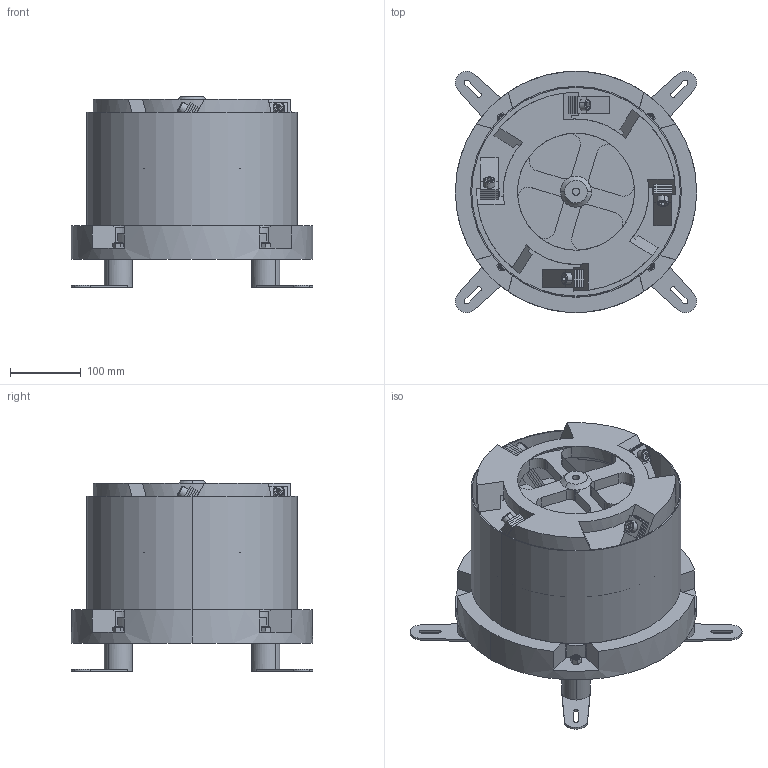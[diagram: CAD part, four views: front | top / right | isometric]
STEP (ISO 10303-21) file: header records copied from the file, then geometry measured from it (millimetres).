
FILE_DESCRIPTION (( 'STEP AP214' ), '1' );
FILE_NAME ('DA3000 酗え 沺裔_.STEP', '2022-04-21T04:55:11', ( '' ), ( '' ), 'SwSTEP 2.0', 'SolidWorks 2018', '' );
FILE_SCHEMA (( 'AUTOMOTIVE_DESIGN' ));
Length unit declared in the file: millimetre
Products named in the file (1): DA3000 酗え  沺裔_
Bounding box: 340.22 x 340.22 x 269 mm (x, y, z)
Volume: 11002834.3 mm3; surface area: 884158.8 mm2
Topology: 27 solids, 31 shells, 553 faces, 1336 edges, 862 vertices
Faces by surface type: plane 307, cylinder 169, cone 62, torus 15
Entity records: 17075 total; most frequent: CARTESIAN_POINT 3526, DIRECTION 2839, ORIENTED_EDGE 2672, EDGE_CURVE 1336, AXIS2_PLACEMENT_3D 1059, VERTEX_POINT 862, VECTOR 721, LINE 721
